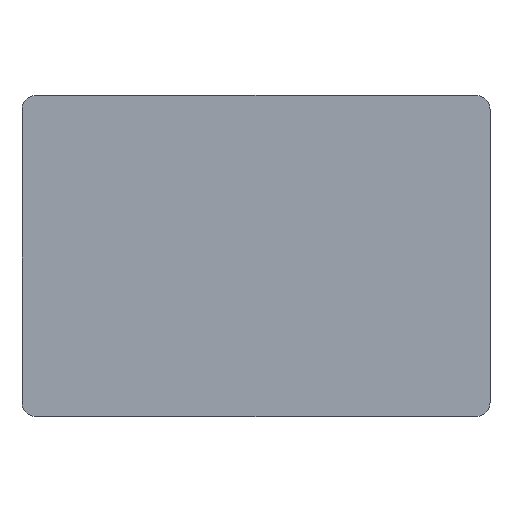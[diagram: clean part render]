
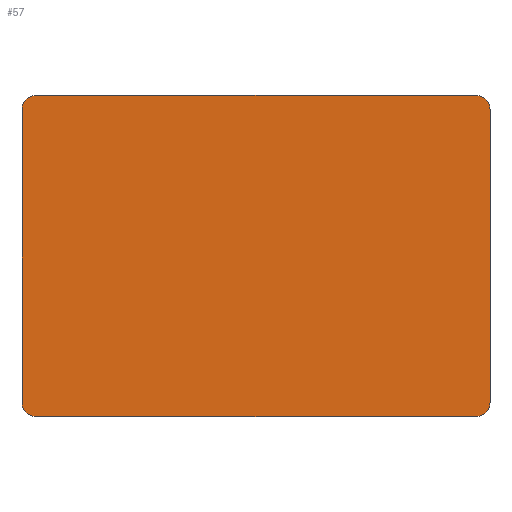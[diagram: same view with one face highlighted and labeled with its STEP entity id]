
A CAD part, top view. The second image highlights one B-rep face of the part: STEP entity #57.
In plain terms, the highlighted planar face has unit normal (0, 0, 1).
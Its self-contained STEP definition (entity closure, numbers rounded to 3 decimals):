
#21 = EDGE_CURVE('',#22,#24,#26,.T.);
#22 = VERTEX_POINT('',#23);
#23 = CARTESIAN_POINT('',(30.,30.,110.));
#24 = VERTEX_POINT('',#25);
#25 = CARTESIAN_POINT('',(30.,130.,110.));
#26 = LINE('',#27,#28);
#27 = CARTESIAN_POINT('',(30.,25.,110.));
#28 = VECTOR('',#29,1.);
#29 = DIRECTION('',(0.,1.,0.));
#57 = ADVANCED_FACE('',(#58),#119,.T.);
#58 = FACE_BOUND('',#59,.T.);
#59 = EDGE_LOOP('',(#60,#61,#70,#78,#87,#95,#104,#112));
#60 = ORIENTED_EDGE('',*,*,#21,.F.);
#61 = ORIENTED_EDGE('',*,*,#62,.T.);
#62 = EDGE_CURVE('',#22,#63,#65,.T.);
#63 = VERTEX_POINT('',#64);
#64 = CARTESIAN_POINT('',(35.,25.,110.));
#65 = CIRCLE('',#66,5.);
#66 = AXIS2_PLACEMENT_3D('',#67,#68,#69);
#67 = CARTESIAN_POINT('',(35.,30.,110.));
#68 = DIRECTION('',(-0.,0.,1.));
#69 = DIRECTION('',(0.,-1.,0.));
#70 = ORIENTED_EDGE('',*,*,#71,.T.);
#71 = EDGE_CURVE('',#63,#72,#74,.T.);
#72 = VERTEX_POINT('',#73);
#73 = CARTESIAN_POINT('',(185.,25.,110.));
#74 = LINE('',#75,#76);
#75 = CARTESIAN_POINT('',(30.,25.,110.));
#76 = VECTOR('',#77,1.);
#77 = DIRECTION('',(1.,0.,0.));
#78 = ORIENTED_EDGE('',*,*,#79,.F.);
#79 = EDGE_CURVE('',#80,#72,#82,.T.);
#80 = VERTEX_POINT('',#81);
#81 = CARTESIAN_POINT('',(190.,30.,110.));
#82 = CIRCLE('',#83,5.);
#83 = AXIS2_PLACEMENT_3D('',#84,#85,#86);
#84 = CARTESIAN_POINT('',(185.,30.,110.));
#85 = DIRECTION('',(-0.,-0.,-1.));
#86 = DIRECTION('',(0.,-1.,0.));
#87 = ORIENTED_EDGE('',*,*,#88,.T.);
#88 = EDGE_CURVE('',#80,#89,#91,.T.);
#89 = VERTEX_POINT('',#90);
#90 = CARTESIAN_POINT('',(190.,130.,110.));
#91 = LINE('',#92,#93);
#92 = CARTESIAN_POINT('',(190.,25.,110.));
#93 = VECTOR('',#94,1.);
#94 = DIRECTION('',(0.,1.,0.));
#95 = ORIENTED_EDGE('',*,*,#96,.T.);
#96 = EDGE_CURVE('',#89,#97,#99,.T.);
#97 = VERTEX_POINT('',#98);
#98 = CARTESIAN_POINT('',(185.,135.,110.));
#99 = CIRCLE('',#100,5.);
#100 = AXIS2_PLACEMENT_3D('',#101,#102,#103);
#101 = CARTESIAN_POINT('',(185.,130.,110.));
#102 = DIRECTION('',(-0.,0.,1.));
#103 = DIRECTION('',(0.,-1.,0.));
#104 = ORIENTED_EDGE('',*,*,#105,.F.);
#105 = EDGE_CURVE('',#106,#97,#108,.T.);
#106 = VERTEX_POINT('',#107);
#107 = CARTESIAN_POINT('',(35.,135.,110.));
#108 = LINE('',#109,#110);
#109 = CARTESIAN_POINT('',(30.,135.,110.));
#110 = VECTOR('',#111,1.);
#111 = DIRECTION('',(1.,0.,0.));
#112 = ORIENTED_EDGE('',*,*,#113,.F.);
#113 = EDGE_CURVE('',#24,#106,#114,.T.);
#114 = CIRCLE('',#115,5.);
#115 = AXIS2_PLACEMENT_3D('',#116,#117,#118);
#116 = CARTESIAN_POINT('',(35.,130.,110.));
#117 = DIRECTION('',(-0.,-0.,-1.));
#118 = DIRECTION('',(0.,-1.,0.));
#119 = PLANE('',#120);
#120 = AXIS2_PLACEMENT_3D('',#121,#122,#123);
#121 = CARTESIAN_POINT('',(30.,25.,110.));
#122 = DIRECTION('',(0.,0.,1.));
#123 = DIRECTION('',(1.,0.,0.));
